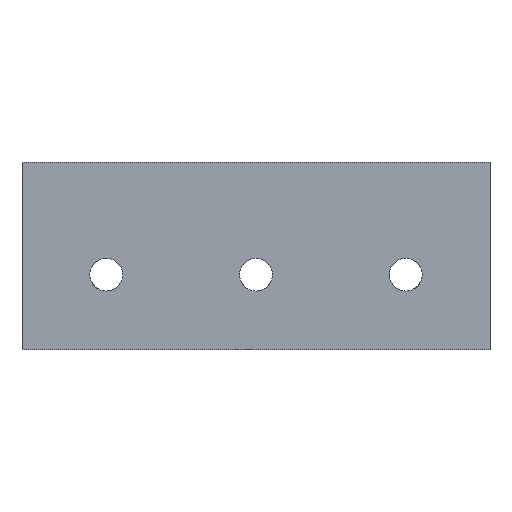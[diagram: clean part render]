
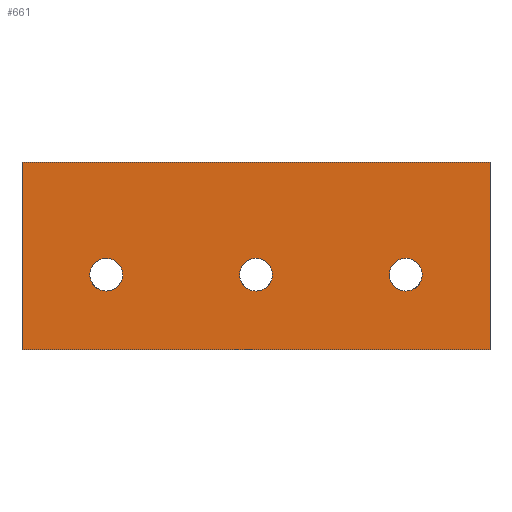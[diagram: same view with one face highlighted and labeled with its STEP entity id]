
A CAD part, left-side view. The second image highlights one B-rep face of the part: STEP entity #661.
In plain terms, the highlighted planar face has unit normal (-1, 0, 0).
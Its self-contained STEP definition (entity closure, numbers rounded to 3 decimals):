
#347=CARTESIAN_POINT('Vertex',(0.,250.,0.)) ;
#354=CARTESIAN_POINT('Vertex',(0.,0.,0.)) ;
#357=CARTESIAN_POINT('Line Origine',(0.,125.,0.)) ;
#374=CARTESIAN_POINT('Line Origine',(0.,250.,50.)) ;
#378=CARTESIAN_POINT('Vertex',(0.,250.,100.)) ;
#398=CARTESIAN_POINT('Line Origine',(0.,125.,100.)) ;
#402=CARTESIAN_POINT('Vertex',(0.,0.,100.)) ;
#422=CARTESIAN_POINT('Line Origine',(0.,0.,50.)) ;
#443=CARTESIAN_POINT('Vertex',(0.,205.,48.75)) ;
#446=CARTESIAN_POINT('Axis2P3D Location',(0.,205.,40.)) ;
#450=CARTESIAN_POINT('Vertex',(0.,213.75,40.)) ;
#453=CARTESIAN_POINT('Axis2P3D Location',(0.,205.,40.)) ;
#457=CARTESIAN_POINT('Vertex',(0.,205.,31.25)) ;
#479=CARTESIAN_POINT('Axis2P3D Location',(0.,205.,40.)) ;
#483=CARTESIAN_POINT('Vertex',(0.,196.25,40.)) ;
#486=CARTESIAN_POINT('Axis2P3D Location',(0.,205.,40.)) ;
#509=CARTESIAN_POINT('Vertex',(0.,125.,48.75)) ;
#512=CARTESIAN_POINT('Axis2P3D Location',(0.,125.,40.)) ;
#516=CARTESIAN_POINT('Vertex',(0.,133.75,40.)) ;
#519=CARTESIAN_POINT('Axis2P3D Location',(0.,125.,40.)) ;
#523=CARTESIAN_POINT('Vertex',(0.,125.,31.25)) ;
#545=CARTESIAN_POINT('Axis2P3D Location',(0.,125.,40.)) ;
#549=CARTESIAN_POINT('Vertex',(0.,116.25,40.)) ;
#552=CARTESIAN_POINT('Axis2P3D Location',(0.,125.,40.)) ;
#575=CARTESIAN_POINT('Vertex',(0.,45.,48.75)) ;
#578=CARTESIAN_POINT('Axis2P3D Location',(0.,45.,40.)) ;
#582=CARTESIAN_POINT('Vertex',(0.,53.75,40.)) ;
#585=CARTESIAN_POINT('Axis2P3D Location',(0.,45.,40.)) ;
#589=CARTESIAN_POINT('Vertex',(0.,45.,31.25)) ;
#611=CARTESIAN_POINT('Axis2P3D Location',(0.,45.,40.)) ;
#615=CARTESIAN_POINT('Vertex',(0.,36.25,40.)) ;
#618=CARTESIAN_POINT('Axis2P3D Location',(0.,45.,40.)) ;
#632=CARTESIAN_POINT('Axis2P3D Location',(0.,250.,100.)) ;
#358=DIRECTION('Vector Direction',(0.,-1.,0.)) ;
#375=DIRECTION('Vector Direction',(0.,0.,-1.)) ;
#399=DIRECTION('Vector Direction',(0.,-1.,0.)) ;
#423=DIRECTION('Vector Direction',(0.,0.,-1.)) ;
#447=DIRECTION('Axis2P3D Direction',(-1.,-0.,0.)) ;
#454=DIRECTION('Axis2P3D Direction',(-1.,-0.,0.)) ;
#480=DIRECTION('Axis2P3D Direction',(-1.,-0.,-0.)) ;
#487=DIRECTION('Axis2P3D Direction',(-1.,-0.,-0.)) ;
#513=DIRECTION('Axis2P3D Direction',(-1.,-0.,0.)) ;
#520=DIRECTION('Axis2P3D Direction',(-1.,-0.,0.)) ;
#546=DIRECTION('Axis2P3D Direction',(-1.,-0.,-0.)) ;
#553=DIRECTION('Axis2P3D Direction',(-1.,-0.,-0.)) ;
#579=DIRECTION('Axis2P3D Direction',(-1.,-0.,0.)) ;
#586=DIRECTION('Axis2P3D Direction',(-1.,-0.,0.)) ;
#612=DIRECTION('Axis2P3D Direction',(-1.,-0.,-0.)) ;
#619=DIRECTION('Axis2P3D Direction',(-1.,-0.,-0.)) ;
#633=DIRECTION('Axis2P3D Direction',(1.,0.,-0.)) ;
#634=DIRECTION('Axis2P3D XDirection',(-0.,0.,-1.)) ;
#448=AXIS2_PLACEMENT_3D('Circle Axis2P3D',#446,#447,$) ;
#455=AXIS2_PLACEMENT_3D('Circle Axis2P3D',#453,#454,$) ;
#481=AXIS2_PLACEMENT_3D('Circle Axis2P3D',#479,#480,$) ;
#488=AXIS2_PLACEMENT_3D('Circle Axis2P3D',#486,#487,$) ;
#514=AXIS2_PLACEMENT_3D('Circle Axis2P3D',#512,#513,$) ;
#521=AXIS2_PLACEMENT_3D('Circle Axis2P3D',#519,#520,$) ;
#547=AXIS2_PLACEMENT_3D('Circle Axis2P3D',#545,#546,$) ;
#554=AXIS2_PLACEMENT_3D('Circle Axis2P3D',#552,#553,$) ;
#580=AXIS2_PLACEMENT_3D('Circle Axis2P3D',#578,#579,$) ;
#587=AXIS2_PLACEMENT_3D('Circle Axis2P3D',#585,#586,$) ;
#613=AXIS2_PLACEMENT_3D('Circle Axis2P3D',#611,#612,$) ;
#620=AXIS2_PLACEMENT_3D('Circle Axis2P3D',#618,#619,$) ;
#635=AXIS2_PLACEMENT_3D('Plane Axis2P3D',#632,#633,#634) ;
#638=ORIENTED_EDGE('',*,*,#361,.T.) ;
#639=ORIENTED_EDGE('',*,*,#426,.F.) ;
#640=ORIENTED_EDGE('',*,*,#404,.F.) ;
#641=ORIENTED_EDGE('',*,*,#380,.T.) ;
#644=ORIENTED_EDGE('',*,*,#452,.T.) ;
#645=ORIENTED_EDGE('',*,*,#490,.T.) ;
#646=ORIENTED_EDGE('',*,*,#485,.T.) ;
#647=ORIENTED_EDGE('',*,*,#459,.T.) ;
#650=ORIENTED_EDGE('',*,*,#518,.T.) ;
#651=ORIENTED_EDGE('',*,*,#556,.T.) ;
#652=ORIENTED_EDGE('',*,*,#551,.T.) ;
#653=ORIENTED_EDGE('',*,*,#525,.T.) ;
#656=ORIENTED_EDGE('',*,*,#584,.T.) ;
#657=ORIENTED_EDGE('',*,*,#622,.T.) ;
#658=ORIENTED_EDGE('',*,*,#617,.T.) ;
#659=ORIENTED_EDGE('',*,*,#591,.T.) ;
#648=FACE_BOUND('',#643,.T.) ;
#654=FACE_BOUND('',#649,.T.) ;
#660=FACE_BOUND('',#655,.T.) ;
#359=VECTOR('Line Direction',#358,1.) ;
#376=VECTOR('Line Direction',#375,1.) ;
#400=VECTOR('Line Direction',#399,1.) ;
#424=VECTOR('Line Direction',#423,1.) ;
#661=ADVANCED_FACE('A612-100-250',(#642,#648,#654,#660),#636,.F.) ;
#449=CIRCLE('generated circle',#448,8.75) ;
#456=CIRCLE('generated circle',#455,8.75) ;
#482=CIRCLE('generated circle',#481,8.75) ;
#489=CIRCLE('generated circle',#488,8.75) ;
#515=CIRCLE('generated circle',#514,8.75) ;
#522=CIRCLE('generated circle',#521,8.75) ;
#548=CIRCLE('generated circle',#547,8.75) ;
#555=CIRCLE('generated circle',#554,8.75) ;
#581=CIRCLE('generated circle',#580,8.75) ;
#588=CIRCLE('generated circle',#587,8.75) ;
#614=CIRCLE('generated circle',#613,8.75) ;
#621=CIRCLE('generated circle',#620,8.75) ;
#361=EDGE_CURVE('',#348,#355,#360,.T.) ;
#380=EDGE_CURVE('',#379,#348,#377,.T.) ;
#404=EDGE_CURVE('',#379,#403,#401,.T.) ;
#426=EDGE_CURVE('',#403,#355,#425,.T.) ;
#452=EDGE_CURVE('',#451,#444,#449,.F.) ;
#459=EDGE_CURVE('',#458,#451,#456,.F.) ;
#485=EDGE_CURVE('',#484,#458,#482,.F.) ;
#490=EDGE_CURVE('',#444,#484,#489,.F.) ;
#518=EDGE_CURVE('',#517,#510,#515,.F.) ;
#525=EDGE_CURVE('',#524,#517,#522,.F.) ;
#551=EDGE_CURVE('',#550,#524,#548,.F.) ;
#556=EDGE_CURVE('',#510,#550,#555,.F.) ;
#584=EDGE_CURVE('',#583,#576,#581,.F.) ;
#591=EDGE_CURVE('',#590,#583,#588,.F.) ;
#617=EDGE_CURVE('',#616,#590,#614,.F.) ;
#622=EDGE_CURVE('',#576,#616,#621,.F.) ;
#637=EDGE_LOOP('',(#638,#639,#640,#641)) ;
#643=EDGE_LOOP('',(#644,#645,#646,#647)) ;
#649=EDGE_LOOP('',(#650,#651,#652,#653)) ;
#655=EDGE_LOOP('',(#656,#657,#658,#659)) ;
#642=FACE_OUTER_BOUND('',#637,.T.) ;
#360=LINE('Line',#357,#359) ;
#377=LINE('Line',#374,#376) ;
#401=LINE('Line',#398,#400) ;
#425=LINE('Line',#422,#424) ;
#636=PLANE('Plane',#635) ;
#348=VERTEX_POINT('',#347) ;
#355=VERTEX_POINT('',#354) ;
#379=VERTEX_POINT('',#378) ;
#403=VERTEX_POINT('',#402) ;
#444=VERTEX_POINT('',#443) ;
#451=VERTEX_POINT('',#450) ;
#458=VERTEX_POINT('',#457) ;
#484=VERTEX_POINT('',#483) ;
#510=VERTEX_POINT('',#509) ;
#517=VERTEX_POINT('',#516) ;
#524=VERTEX_POINT('',#523) ;
#550=VERTEX_POINT('',#549) ;
#576=VERTEX_POINT('',#575) ;
#583=VERTEX_POINT('',#582) ;
#590=VERTEX_POINT('',#589) ;
#616=VERTEX_POINT('',#615) ;
